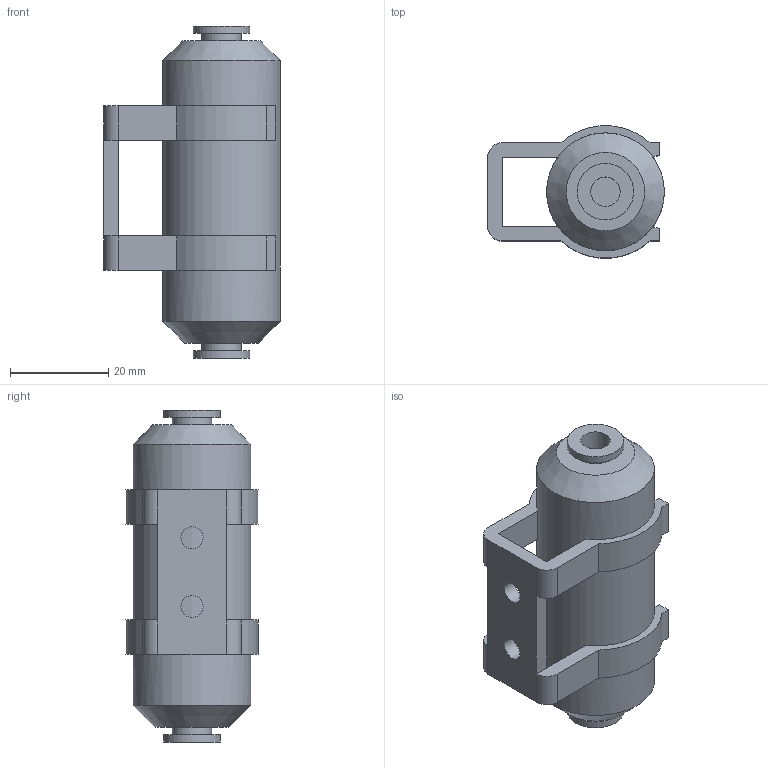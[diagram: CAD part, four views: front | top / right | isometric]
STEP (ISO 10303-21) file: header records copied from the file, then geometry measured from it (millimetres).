
FILE_DESCRIPTION(/* description */ ('FILTRO x VUOTO in LINEA 50 l/min T6'),/* implementation_level */ '2;1');
FILE_NAME(/* name */ 'C:\PNX_VAULTFOLDER\Area Tecnica\Disegni\VARIE-3D\Componenti\1900 (vuoto)\19F06_L_02.stp',/* time_stamp */ '2019-09-13T15:00:36+02:00',/* author */ ('maniean1'),/* organization */ ('Pneumax S.p.A.'),/* preprocessor_version */ 'ST-DEVELOPER v17',/* originating_system */ 'Autodesk Inventor 2019',/* authorisation */ '');
FILE_SCHEMA (('AUTOMOTIVE_DESIGN { 1 0 10303 214 3 1 1 }'));
Length unit declared in the file: millimetre
Products named in the file (1): 19F06.L.02
Bounding box: 36 x 26.91 x 67.6 mm (x, y, z)
Volume: 29940.4 mm3; surface area: 8634.8 mm2
Topology: 1 solids, 1 shells, 57 faces, 165 edges, 112 vertices
Faces by surface type: plane 38, cylinder 17, cone 2
Full cylindrical faces by diameter (mm): 4.5 x2, 6 x2, 8 x2, 11.5 x2, 24 x1
Entity records: 1970 total; most frequent: DIRECTION 345, CARTESIAN_POINT 335, ORIENTED_EDGE 330, EDGE_CURVE 165, AXIS2_PLACEMENT_3D 122, VERTEX_POINT 112, LINE 101, VECTOR 101
